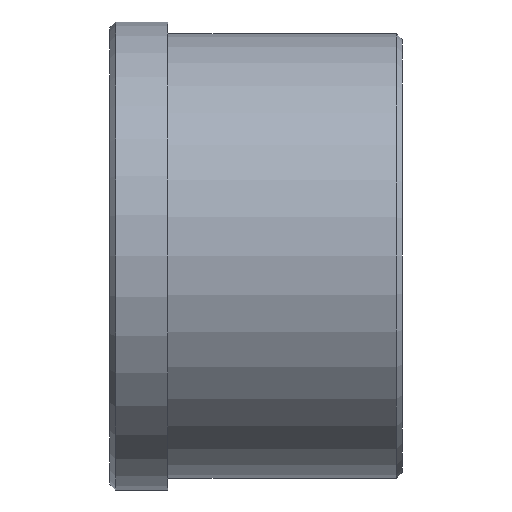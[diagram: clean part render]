
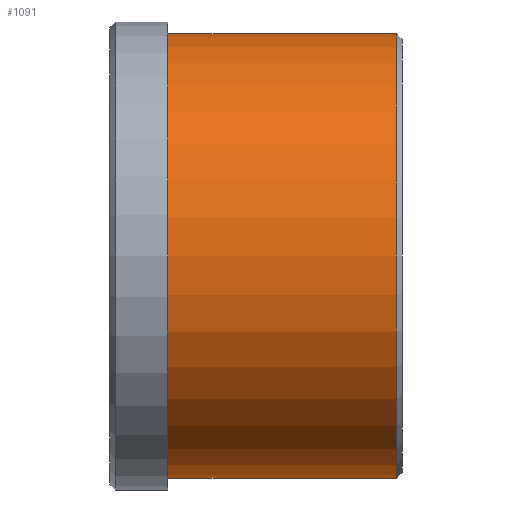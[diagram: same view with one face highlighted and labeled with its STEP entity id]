
A CAD part, left-side view. The second image highlights one B-rep face of the part: STEP entity #1091.
In plain terms, the highlighted cylindrical face has radius 38 mm (diameter 76 mm), a full revolution.
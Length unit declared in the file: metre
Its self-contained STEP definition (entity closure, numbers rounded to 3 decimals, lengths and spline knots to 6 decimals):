
#1091=ADVANCED_FACE('',(#2066,#2067),#2068,.T.);
#2066=FACE_OUTER_BOUND('',#3984,.T.);
#2067=FACE_OUTER_BOUND('',#3985,.T.);
#2068=CYLINDRICAL_SURFACE('',#3986,0.038);
#3984=EDGE_LOOP('',(#5550));
#3985=EDGE_LOOP('',(#5551));
#3986=AXIS2_PLACEMENT_3D('',#5552,#5553,#5554);
#5550=ORIENTED_EDGE('',*,*,#5884,.T.);
#5551=ORIENTED_EDGE('',*,*,#5885,.F.);
#5552=CARTESIAN_POINT('',(0.012432,-0.034756,0.0));
#5553=DIRECTION('',(-0.0,-1.0,-0.0));
#5554=DIRECTION('',(0.0,0.0,1.0));
#5884=EDGE_CURVE('',#6045,#6045,#6046,.T.);
#5885=EDGE_CURVE('',#6047,#6047,#6048,.T.);
#6045=VERTEX_POINT('',#6306);
#6046=CIRCLE('',#6307,0.038);
#6047=VERTEX_POINT('',#6308);
#6048=CIRCLE('',#6309,0.038);
#6306=CARTESIAN_POINT('',(0.012432,-0.086073,0.038));
#6307=AXIS2_PLACEMENT_3D('',#6458,#6459,#6460);
#6308=CARTESIAN_POINT('',(0.012432,-0.047013,0.038));
#6309=AXIS2_PLACEMENT_3D('',#6461,#6462,#6463);
#6458=CARTESIAN_POINT('',(0.012432,-0.086073,0.0));
#6459=DIRECTION('',(0.0,1.0,0.0));
#6460=DIRECTION('',(0.0,0.0,1.0));
#6461=CARTESIAN_POINT('',(0.012432,-0.047013,0.0));
#6462=DIRECTION('',(0.0,1.0,0.0));
#6463=DIRECTION('',(0.0,0.0,1.0));
